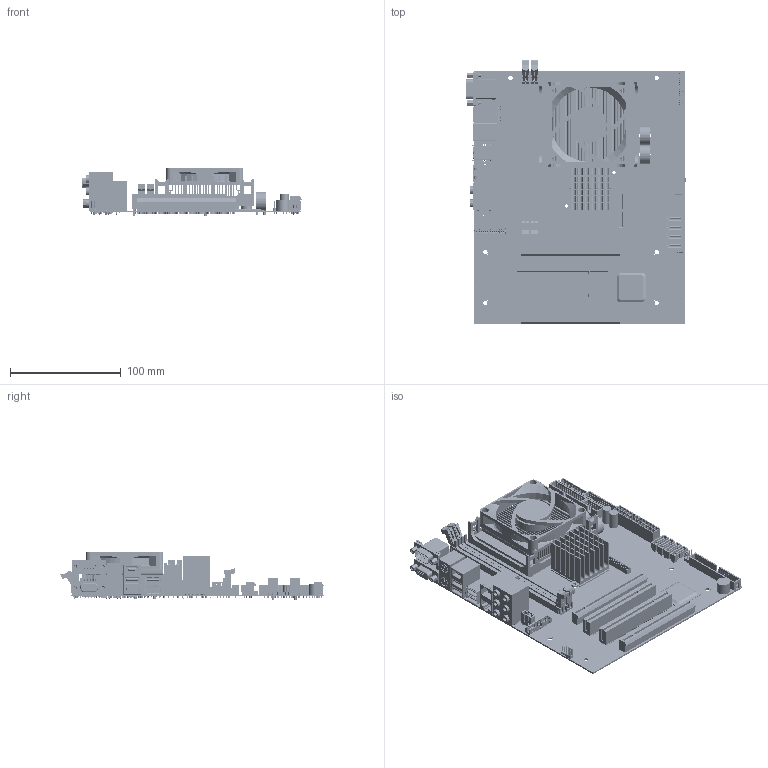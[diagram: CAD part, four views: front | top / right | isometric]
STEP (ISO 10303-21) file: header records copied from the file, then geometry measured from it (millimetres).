
FILE_DESCRIPTION((''),'2;1');
FILE_NAME('ASM_KT986_FLEX_MB_ASM','2008-02-18T',('john.hsu'),(''),'PRO/ENGINEER BY PARAMETRIC TECHNOLOGY CORPORATION, 2004490','PRO/ENGINEER BY PARAMETRIC TECHNOLOGY CORPORATION, 2004490','');
FILE_SCHEMA(('CONFIG_CONTROL_DESIGN'));
Length unit declared in the file: millimetre
Products named in the file (37): PCB_KT986_FLEX; CAP-ELEC-10V-1000UF-M; CONN-PLUG-SA-2X20P-P127; CONN-SATA-7P-P127; HEADER-BOX-2X20P-VOID-20TH; CON-4PIN-WAFER-TOPYANG; CONN-PLUG-SA-2X13P-P2; CONN-PLUG-SA-6P-P254; CONN-PLUG-SA-3P-P254; CONN-PLUG-SA-2X5P-9PIN; CON-10P-FOXCONN-9PIN; CPU-SCOKET-478B_; IC-NH82801GR-SL8FY-PBGA3-652; IC-QG829-SL8Z2-A3-FCBGA-1466; HEATSINK-HSIN-WEI-2037; CONN-DDR2-LOTES-240P; LAN-JACKX2-TRANS-LED; CONN-D-SUB-9-15P; CONN-STACKED-USBX2-1394X1; CONN-USB-FOXCONN-327-0000-1078; CHOKE-COIL-04UH-D17X9; BUZZER-5V-85DB-DIP; CPU-SOCKET-NOR-RM; KONTRON-CPU-COOLER-HS07-1; KONTRON-CPU-COOLER-HS07-2; KONTRON-CPU-COOLER-HS07_ASM; CON-24P-FOXCONN-HL20XX1; CON-2X15P-MOLEX-SD-87831-011; CON-PLUG_2X13_FOXCON; CONN-PLUG-SA-2X10P-19TH; CONN-PLUG-2X5P-VOID-9TH; CON-PWR24P-FOXCONN-HM25120; TYCO-4-1612163-X; CON-PCI-EH06001_GV_V-FOXCONN; AUDIO_X6; CON-PS2-FOXCONN-MH11061-PD2; ASM_KT986_FLEX_MB_ASM
Assembly tree (46 placements, depth 3):
  ASM_KT986_FLEX_MB_ASM
    PCB_KT986_FLEX
    CAP-ELEC-10V-1000UF-M  x2
    CONN-PLUG-SA-2X20P-P127
    CONN-SATA-7P-P127  x4
    HEADER-BOX-2X20P-VOID-20TH
    CON-4PIN-WAFER-TOPYANG
    CONN-PLUG-SA-2X13P-P2
    CONN-PLUG-SA-6P-P254
    CONN-PLUG-SA-3P-P254
    CONN-PLUG-SA-2X5P-9PIN
    CON-10P-FOXCONN-9PIN
    CPU-SCOKET-478B_
    IC-NH82801GR-SL8FY-PBGA3-652
    IC-QG829-SL8Z2-A3-FCBGA-1466
    HEATSINK-HSIN-WEI-2037
    CONN-DDR2-LOTES-240P  x2
    LAN-JACKX2-TRANS-LED
    CONN-D-SUB-9-15P
    CONN-STACKED-USBX2-1394X1
    CONN-USB-FOXCONN-327-0000-1078
    CHOKE-COIL-04UH-D17X9  x2
    BUZZER-5V-85DB-DIP
    CPU-SOCKET-NOR-RM
    KONTRON-CPU-COOLER-HS07_ASM
      KONTRON-CPU-COOLER-HS07-1
      KONTRON-CPU-COOLER-HS07-2
    CON-24P-FOXCONN-HL20XX1
    CON-2X15P-MOLEX-SD-87831-011
    CON-PLUG_2X13_FOXCON
    CONN-PLUG-SA-2X10P-19TH
    CONN-PLUG-2X5P-VOID-9TH  x3
    CON-PWR24P-FOXCONN-HM25120
    TYCO-4-1612163-X  x2
    CON-PCI-EH06001_GV_V-FOXCONN  x2
    AUDIO_X6
    CON-PS2-FOXCONN-MH11061-PD2
Bounding box: 198.48 x 238.4 x 42.7 mm (x, y, z)
Volume: 295845.6 mm3; surface area: 298587 mm2
Topology: 49 solids, 49 shells, 12300 faces, 31503 edges, 20203 vertices
Faces by surface type: plane 7928, cylinder 3486, cone 504, sphere 342, torus 38, extrusion 2
Entity records: 286195 total; most frequent: CARTESIAN_POINT 51179, DIRECTION 49589, ORIENTED_EDGE 47282, EDGE_CURVE 23641, AXIS2_PLACEMENT_3D 16622, VECTOR 16345, LINE 16343, VERTEX_POINT 15509
